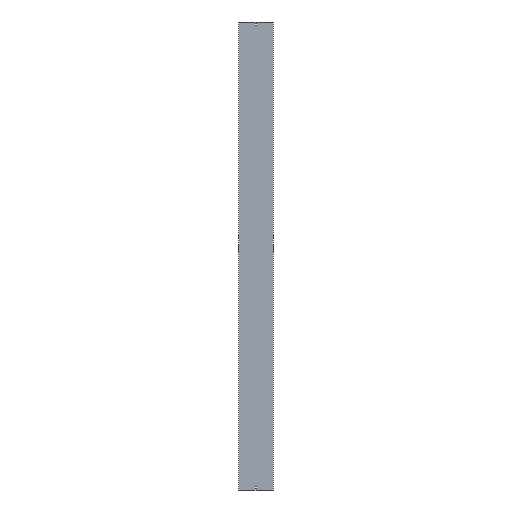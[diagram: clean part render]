
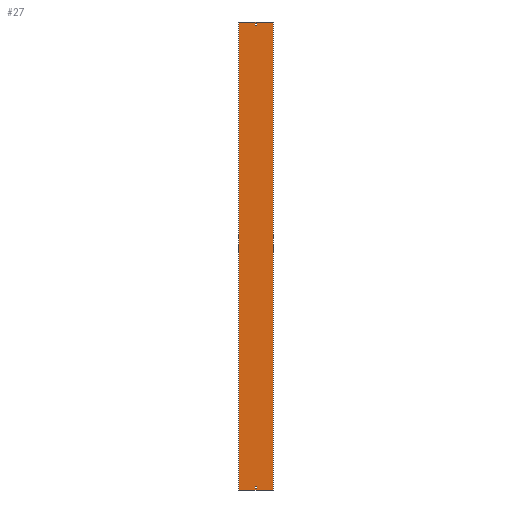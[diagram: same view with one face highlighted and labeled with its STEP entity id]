
A CAD part, front view. The second image highlights one B-rep face of the part: STEP entity #27.
In plain terms, the highlighted planar face has unit normal (0, -1, 0).
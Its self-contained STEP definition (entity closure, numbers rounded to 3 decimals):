
#1 = VERTEX_POINT ( 'NONE', #26 ) ;
#2 = VECTOR ( 'NONE', #78, 1000. ) ;
#7 = VERTEX_POINT ( 'NONE', #522 ) ;
#13 = EDGE_CURVE ( 'NONE', #388, #109, #318, .T. ) ;
#17 = EDGE_LOOP ( 'NONE', ( #277, #391, #414, #335 ) ) ;
#24 = DIRECTION ( 'NONE',  ( -1., 0., 0. ) ) ;
#26 = CARTESIAN_POINT ( 'NONE',  ( -110., -1.5, -1500. ) ) ;
#27 = ADVANCED_FACE ( 'NONE', ( #362, #302, #306 ), #205, .T. ) ;
#34 = DIRECTION ( 'NONE',  ( 0., 0., -1. ) ) ;
#35 = DIRECTION ( 'NONE',  ( -1., 0., 0. ) ) ;
#39 = ORIENTED_EDGE ( 'NONE', *, *, #482, .F. ) ;
#46 = DIRECTION ( 'NONE',  ( 0., 0., -1. ) ) ;
#55 = VERTEX_POINT ( 'NONE', #270 ) ;
#68 = CARTESIAN_POINT ( 'NONE',  ( -3.25, -1.5, -1479. ) ) ;
#69 = CARTESIAN_POINT ( 'NONE',  ( -111.5, -1.5, -1500. ) ) ;
#70 = DIRECTION ( 'NONE',  ( 1., 0., 0. ) ) ;
#78 = DIRECTION ( 'NONE',  ( -1., 0., 0. ) ) ;
#81 = CARTESIAN_POINT ( 'NONE',  ( -110., -1.5, 1500. ) ) ;
#87 = VECTOR ( 'NONE', #585, 1000. ) ;
#89 = EDGE_CURVE ( 'NONE', #322, #1, #450, .T. ) ;
#100 = LINE ( 'NONE', #461, #471 ) ;
#107 = ORIENTED_EDGE ( 'NONE', *, *, #13, .T. ) ;
#109 = VERTEX_POINT ( 'NONE', #228 ) ;
#115 = LINE ( 'NONE', #483, #317 ) ;
#116 = VECTOR ( 'NONE', #272, 1000. ) ;
#121 = LINE ( 'NONE', #69, #372 ) ;
#124 = CARTESIAN_POINT ( 'NONE',  ( -111.5, -1.5, -1488. ) ) ;
#132 = VERTEX_POINT ( 'NONE', #142 ) ;
#133 = LINE ( 'NONE', #541, #547 ) ;
#142 = CARTESIAN_POINT ( 'NONE',  ( 110., -1.5, -1500. ) ) ;
#149 = EDGE_LOOP ( 'NONE', ( #383, #39, #411, #291 ) ) ;
#157 = CARTESIAN_POINT ( 'NONE',  ( -111.5, -1.5, 1488. ) ) ;
#159 = LINE ( 'NONE', #487, #87 ) ;
#175 = CARTESIAN_POINT ( 'NONE',  ( -110., -1.5, 1500. ) ) ;
#178 = CARTESIAN_POINT ( 'NONE',  ( -3.25, -1.5, 1488. ) ) ;
#195 = CARTESIAN_POINT ( 'NONE',  ( 3.25, -1.5, -1488. ) ) ;
#199 = CARTESIAN_POINT ( 'NONE',  ( -111.5, -1.5, 1500. ) ) ;
#201 = VERTEX_POINT ( 'NONE', #416 ) ;
#205 = PLANE ( 'NONE',  #281 ) ;
#228 = CARTESIAN_POINT ( 'NONE',  ( -3.25, -1.5, -1488. ) ) ;
#240 = EDGE_CURVE ( 'NONE', #537, #388, #399, .T. ) ;
#270 = CARTESIAN_POINT ( 'NONE',  ( 3.25, -1.5, 1488. ) ) ;
#271 = CARTESIAN_POINT ( 'NONE',  ( 3.25, -1.5, -1479. ) ) ;
#272 = DIRECTION ( 'NONE',  ( 0., 0., 1. ) ) ;
#276 = VECTOR ( 'NONE', #295, 1000. ) ;
#277 = ORIENTED_EDGE ( 'NONE', *, *, #586, .F. ) ;
#281 = AXIS2_PLACEMENT_3D ( 'NONE', #308, #529, #438 ) ;
#288 = EDGE_CURVE ( 'NONE', #478, #385, #159, .T. ) ;
#291 = ORIENTED_EDGE ( 'NONE', *, *, #432, .F. ) ;
#295 = DIRECTION ( 'NONE',  ( -1., 0., 0. ) ) ;
#302 = FACE_OUTER_BOUND ( 'NONE', #17, .T. ) ;
#303 = CARTESIAN_POINT ( 'NONE',  ( -111.5, -1.5, 1479. ) ) ;
#306 = FACE_BOUND ( 'NONE', #552, .T. ) ;
#308 = CARTESIAN_POINT ( 'NONE',  ( -111.5, -1.5, 1500. ) ) ;
#317 = VECTOR ( 'NONE', #70, 1000. ) ;
#318 = LINE ( 'NONE', #124, #543 ) ;
#322 = VERTEX_POINT ( 'NONE', #81 ) ;
#326 = ORIENTED_EDGE ( 'NONE', *, *, #497, .T. ) ;
#327 = CARTESIAN_POINT ( 'NONE',  ( -3.25, -1.5, 1479. ) ) ;
#335 = ORIENTED_EDGE ( 'NONE', *, *, #89, .T. ) ;
#338 = VECTOR ( 'NONE', #479, 1000. ) ;
#342 = EDGE_CURVE ( 'NONE', #109, #433, #499, .T. ) ;
#362 = FACE_BOUND ( 'NONE', #149, .T. ) ;
#372 = VECTOR ( 'NONE', #35, 1000. ) ;
#383 = ORIENTED_EDGE ( 'NONE', *, *, #288, .F. ) ;
#385 = VERTEX_POINT ( 'NONE', #327 ) ;
#388 = VERTEX_POINT ( 'NONE', #195 ) ;
#390 = LINE ( 'NONE', #199, #276 ) ;
#391 = ORIENTED_EDGE ( 'NONE', *, *, #405, .F. ) ;
#394 = DIRECTION ( 'NONE',  ( 0., 0., -1. ) ) ;
#399 = LINE ( 'NONE', #498, #563 ) ;
#405 = EDGE_CURVE ( 'NONE', #201, #132, #100, .T. ) ;
#411 = ORIENTED_EDGE ( 'NONE', *, *, #545, .F. ) ;
#414 = ORIENTED_EDGE ( 'NONE', *, *, #447, .T. ) ;
#415 = LINE ( 'NONE', #157, #2 ) ;
#416 = CARTESIAN_POINT ( 'NONE',  ( 110., -1.5, 1500. ) ) ;
#428 = LINE ( 'NONE', #303, #338 ) ;
#432 = EDGE_CURVE ( 'NONE', #385, #7, #428, .T. ) ;
#433 = VERTEX_POINT ( 'NONE', #68 ) ;
#438 = DIRECTION ( 'NONE',  ( 0., 0., -1. ) ) ;
#441 = DIRECTION ( 'NONE',  ( 0., 0., 1. ) ) ;
#447 = EDGE_CURVE ( 'NONE', #201, #322, #390, .T. ) ;
#450 = LINE ( 'NONE', #175, #590 ) ;
#461 = CARTESIAN_POINT ( 'NONE',  ( 110., -1.5, 1500. ) ) ;
#471 = VECTOR ( 'NONE', #46, 1000. ) ;
#478 = VERTEX_POINT ( 'NONE', #178 ) ;
#479 = DIRECTION ( 'NONE',  ( 1., 0., 0. ) ) ;
#482 = EDGE_CURVE ( 'NONE', #55, #478, #415, .T. ) ;
#483 = CARTESIAN_POINT ( 'NONE',  ( -111.5, -1.5, -1479. ) ) ;
#487 = CARTESIAN_POINT ( 'NONE',  ( -3.25, -1.5, 1500. ) ) ;
#497 = EDGE_CURVE ( 'NONE', #433, #537, #115, .T. ) ;
#498 = CARTESIAN_POINT ( 'NONE',  ( 3.25, -1.5, 1500. ) ) ;
#499 = LINE ( 'NONE', #524, #116 ) ;
#520 = ORIENTED_EDGE ( 'NONE', *, *, #342, .T. ) ;
#522 = CARTESIAN_POINT ( 'NONE',  ( 3.25, -1.5, 1479. ) ) ;
#524 = CARTESIAN_POINT ( 'NONE',  ( -3.25, -1.5, 1500. ) ) ;
#529 = DIRECTION ( 'NONE',  ( 0., -1., 0. ) ) ;
#537 = VERTEX_POINT ( 'NONE', #271 ) ;
#541 = CARTESIAN_POINT ( 'NONE',  ( 3.25, -1.5, 1500. ) ) ;
#543 = VECTOR ( 'NONE', #24, 1000. ) ;
#545 = EDGE_CURVE ( 'NONE', #7, #55, #133, .T. ) ;
#547 = VECTOR ( 'NONE', #441, 1000. ) ;
#552 = EDGE_LOOP ( 'NONE', ( #107, #520, #326, #564 ) ) ;
#563 = VECTOR ( 'NONE', #394, 1000. ) ;
#564 = ORIENTED_EDGE ( 'NONE', *, *, #240, .T. ) ;
#585 = DIRECTION ( 'NONE',  ( 0., 0., -1. ) ) ;
#586 = EDGE_CURVE ( 'NONE', #132, #1, #121, .T. ) ;
#590 = VECTOR ( 'NONE', #34, 1000. ) ;
